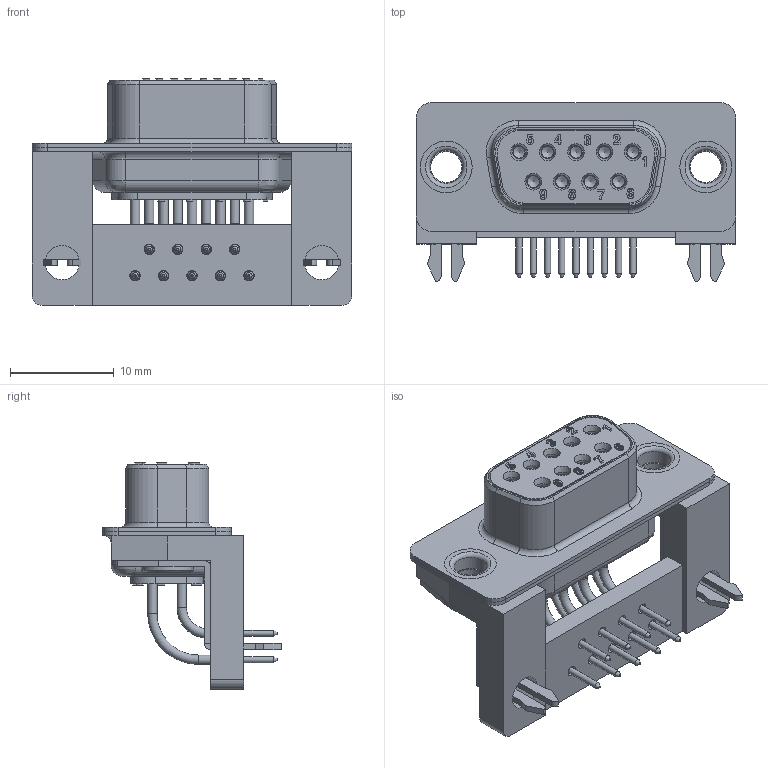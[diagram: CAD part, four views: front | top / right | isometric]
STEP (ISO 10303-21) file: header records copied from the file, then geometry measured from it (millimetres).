
FILE_DESCRIPTION(/* description */ ('I09S','CAx-IF Rec.Pracs.---Representation and Presentation of Product Manufacturing Information (PMI)---4.0---2014-10-13'),/* implementation_level */ '2;1');
FILE_NAME(/* name */ 'G:\Alle CAD Daten\CAMTEC_2020_Pack and Go\PSU CPS-i3000 - CPS-i2000\DTS09SYC2M64ZM3.stp',/* time_stamp */ '2020-09-20T22:55:15+02:00',/* author */ ('rryba'),/* organization */ (''),/* preprocessor_version */ 'ST-DEVELOPER v18.1',/* originating_system */ 'Autodesk Inventor 2021',/* authorisation */ '');
FILE_SCHEMA (('AP242_MANAGED_MODEL_BASED_3D_ENGINEERING_MIM_LF { 1 0 10303 442 1 1 4 }'));
Length unit declared in the file: millimetre
Products named in the file (9): DTS09SYC2M64ZM3; N00402_BG; R+B00067_BG; R+B00066_BG; R+B00142_BG; R+B00137_BG; N00573_BG; R+B00306_BG; R+B00104_female_BG
Assembly tree (17 placements, depth 2):
  DTS09SYC2M64ZM3
    N00402_BG
    R+B00067_BG  x5
    R+B00066_BG  x4
    R+B00142_BG
    R+B00137_BG
    N00573_BG
    R+B00306_BG  x2
    R+B00104_female_BG  x2
Bounding box: 30.8 x 17.2 x 21.85 mm (x, y, z)
Volume: 2725.1 mm3; surface area: 6503 mm2
Topology: 17 solids, 17 shells, 1857 faces, 4981 edges, 3252 vertices
Faces by surface type: plane 1074, cylinder 571, cone 107, bspline 56, torus 49
Full cylindrical faces by diameter (mm): 0.242 x2, 0.281 x2, 0.6 x9, 0.9 x18, 1 x9, 1.6 x27, 1.7 x9, 1.92 x9, 1.96 x27, 2.3 x9, 3 x2, 3.2 x2, 3.3 x2, 4 x2, 4.06 x4, 4.08 x2, 4.3 x2, 5 x6
Entity records: 28605 total; most frequent: CARTESIAN_POINT 8809, DIRECTION 4056, ORIENTED_EDGE 3976, EDGE_CURVE 1988, AXIS2_PLACEMENT_3D 1426, VERTEX_POINT 1291, LINE 1204, VECTOR 1204
